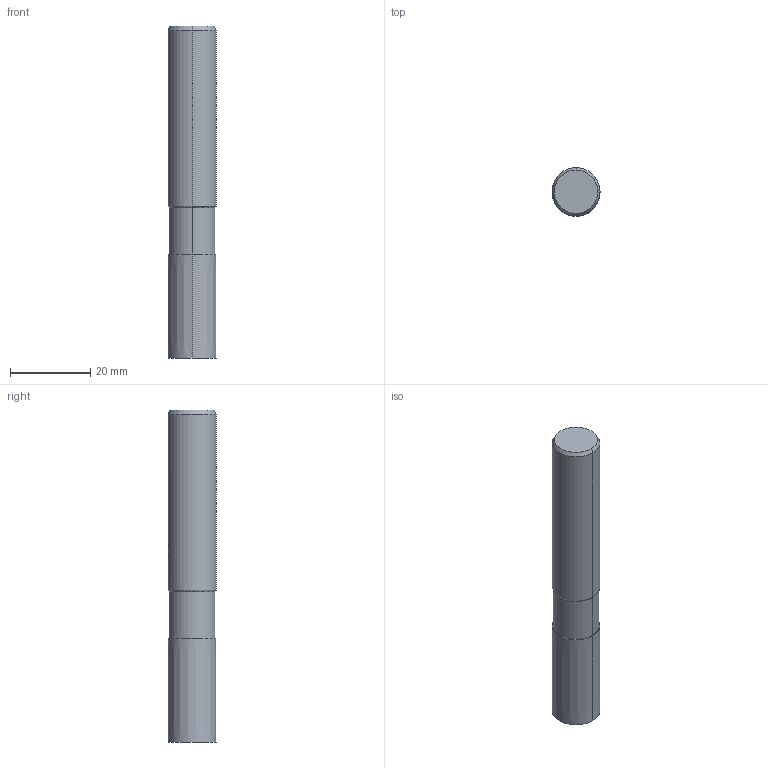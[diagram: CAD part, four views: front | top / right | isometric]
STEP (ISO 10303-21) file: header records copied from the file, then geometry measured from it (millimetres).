
FILE_DESCRIPTION(('no description'),'unknown implementation level');
FILE_NAME('solida6o5iHUrzS4t_iGAgXJUqNhVZZY_1.STP',' ',('CIMSOURCE GmbH'),('CADClick - KiM GmbH - www.kimweb.de'),'unknown preprocess','ACIS','unknown authorization');
FILE_SCHEMA(('automotive_design'));
Length unit declared in the file: millimetre
Products named in the file (2): NOCUT; CUT
Bounding box: 12 x 12 x 83 mm (x, y, z)
Volume: 9267 mm3; surface area: 4575.1 mm2
Topology: 2 solids, 2 shells, 41 faces, 93 edges, 58 vertices
Faces by surface type: cylinder 16, cone 14, plane 11
Entity records: 2552 total; most frequent: CARTESIAN_POINT 478, DIRECTION 211, STYLED_ITEM 194, PRESENTATION_STYLE_ASSIGNMENT 194, COLOUR_RGB 194, ORIENTED_EDGE 186, EDGE_CURVE 93, CURVE_STYLE 93
